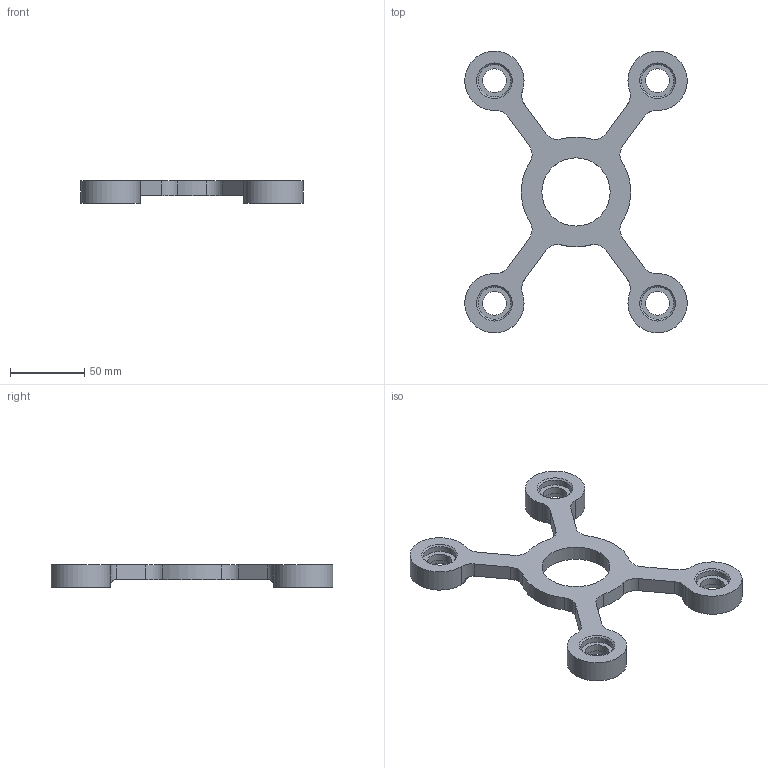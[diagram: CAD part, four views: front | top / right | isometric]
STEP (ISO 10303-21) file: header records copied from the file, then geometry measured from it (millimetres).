
FILE_DESCRIPTION(/* description */ ('','CAx-IF Rec.Pracs.---Representation and Presentation of Product Manufacturing Information (PMI)---4.0---2014-10-13'),/* implementation_level */ '2;1');
FILE_NAME(/* name */ 'base.step',/* time_stamp */ '2025-03-18T20:40:44+01:00',/* author */ (''),/* organization */ (''),/* preprocessor_version */ 'ST-DEVELOPER v20',/* originating_system */ 'Autodesk Translation Framework v13.20.0.188',/* authorisation */ '');
FILE_SCHEMA (('AP242_MANAGED_MODEL_BASED_3D_ENGINEERING_MIM_LF { 1 0 10303 442 1 1 4 }'));
Length unit declared in the file: millimetre
Products named in the file (1): base
Bounding box: 149.88 x 189.96 x 15 mm (x, y, z)
Volume: 104541.3 mm3; surface area: 34504.5 mm2
Topology: 1 solids, 1 shells, 67 faces, 163 edges, 106 vertices
Faces by surface type: cylinder 37, plane 22, cone 4, torus 4
Full cylindrical faces by diameter (mm): 16 x4, 22 x8, 46 x1
Entity records: 2120 total; most frequent: CARTESIAN_POINT 417, DIRECTION 381, ORIENTED_EDGE 326, EDGE_CURVE 163, AXIS2_PLACEMENT_3D 158, VERTEX_POINT 106, CIRCLE 90, EDGE_LOOP 85
